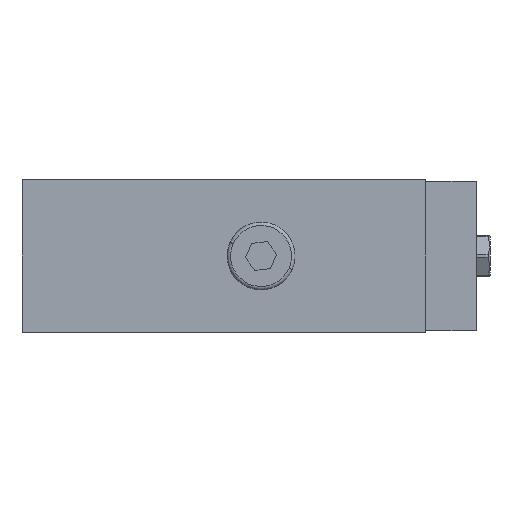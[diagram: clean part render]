
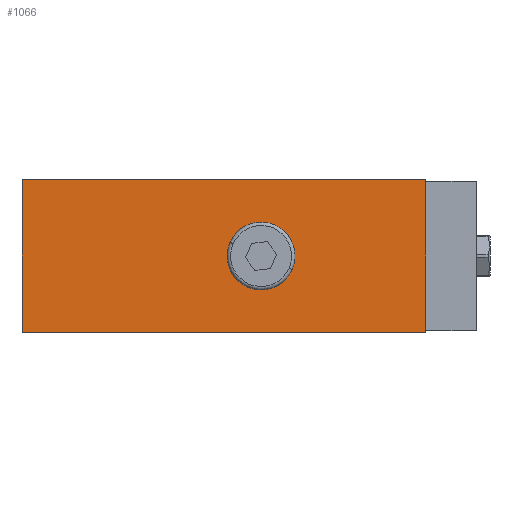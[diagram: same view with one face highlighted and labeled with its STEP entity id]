
A CAD part, front view. The second image highlights one B-rep face of the part: STEP entity #1066.
In plain terms, the highlighted planar face has unit normal (0, -1, 0).
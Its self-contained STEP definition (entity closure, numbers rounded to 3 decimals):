
#64 = ORIENTED_EDGE ( 'NONE', *, *, #8251, .F. ) ;
#102 = CARTESIAN_POINT ( 'NONE',  ( -59.5, 0., 22.5 ) ) ;
#703 = EDGE_LOOP ( 'NONE', ( #12954, #3937, #9017, #12183 ) ) ;
#1066 = ADVANCED_FACE ( 'NONE', ( #10832, #7334 ), #12821, .T. ) ;
#1095 = CARTESIAN_POINT ( 'NONE',  ( 11., 0., 8.5 ) ) ;
#1541 = DIRECTION ( 'NONE',  ( 0., 0., -1. ) ) ;
#1674 = VERTEX_POINT ( 'NONE', #6100 ) ;
#2183 = VERTEX_POINT ( 'NONE', #7733 ) ;
#2865 = LINE ( 'NONE', #9574, #4626 ) ;
#3029 = LINE ( 'NONE', #12957, #4538 ) ;
#3204 = EDGE_CURVE ( 'NONE', #1674, #10638, #2865, .T. ) ;
#3383 = DIRECTION ( 'NONE',  ( 0., 0., -1. ) ) ;
#3937 = ORIENTED_EDGE ( 'NONE', *, *, #11420, .F. ) ;
#4311 = CARTESIAN_POINT ( 'NONE',  ( -59.5, 0., -22.5 ) ) ;
#4538 = VECTOR ( 'NONE', #11820, 1000. ) ;
#4626 = VECTOR ( 'NONE', #7585, 1000. ) ;
#4996 = AXIS2_PLACEMENT_3D ( 'NONE', #13613, #12564, #1541 ) ;
#5225 = VERTEX_POINT ( 'NONE', #12263 ) ;
#5394 = VECTOR ( 'NONE', #8727, 1000. ) ;
#5503 = VERTEX_POINT ( 'NONE', #12320 ) ;
#6100 = CARTESIAN_POINT ( 'NONE',  ( 59.5, 0., 22.5 ) ) ;
#6641 = DIRECTION ( 'NONE',  ( 1., 0., 0. ) ) ;
#6821 = ORIENTED_EDGE ( 'NONE', *, *, #7151, .F. ) ;
#7102 = VECTOR ( 'NONE', #6641, 1000. ) ;
#7151 = EDGE_CURVE ( 'NONE', #12234, #2183, #11204, .T. ) ;
#7334 = FACE_OUTER_BOUND ( 'NONE', #703, .T. ) ;
#7585 = DIRECTION ( 'NONE',  ( 0., 0., -1. ) ) ;
#7675 = DIRECTION ( 'NONE',  ( 0., -1., 0. ) ) ;
#7733 = CARTESIAN_POINT ( 'NONE',  ( 11., 0., -8.5 ) ) ;
#7942 = EDGE_CURVE ( 'NONE', #5503, #1674, #11076, .T. ) ;
#8049 = AXIS2_PLACEMENT_3D ( 'NONE', #12179, #9900, #13176 ) ;
#8251 = EDGE_CURVE ( 'NONE', #2183, #12234, #13272, .T. ) ;
#8462 = EDGE_LOOP ( 'NONE', ( #64, #6821 ) ) ;
#8727 = DIRECTION ( 'NONE',  ( -1., 0., 0. ) ) ;
#9017 = ORIENTED_EDGE ( 'NONE', *, *, #3204, .F. ) ;
#9411 = EDGE_CURVE ( 'NONE', #5225, #5503, #3029, .T. ) ;
#9574 = CARTESIAN_POINT ( 'NONE',  ( 59.5, 0., 22.5 ) ) ;
#9900 = DIRECTION ( 'NONE',  ( 0., -1., 0. ) ) ;
#10638 = VERTEX_POINT ( 'NONE', #12672 ) ;
#10832 = FACE_BOUND ( 'NONE', #8462, .T. ) ;
#11076 = LINE ( 'NONE', #102, #7102 ) ;
#11112 = CARTESIAN_POINT ( 'NONE',  ( -59.5, 0., -22.5 ) ) ;
#11204 = CIRCLE ( 'NONE', #4996, 8.5 ) ;
#11420 = EDGE_CURVE ( 'NONE', #10638, #5225, #14151, .T. ) ;
#11820 = DIRECTION ( 'NONE',  ( 0., 0., 1. ) ) ;
#12179 = CARTESIAN_POINT ( 'NONE',  ( 11., 0., 0. ) ) ;
#12183 = ORIENTED_EDGE ( 'NONE', *, *, #7942, .F. ) ;
#12234 = VERTEX_POINT ( 'NONE', #1095 ) ;
#12263 = CARTESIAN_POINT ( 'NONE',  ( -59.5, 0., -22.5 ) ) ;
#12320 = CARTESIAN_POINT ( 'NONE',  ( -59.5, 0., 22.5 ) ) ;
#12564 = DIRECTION ( 'NONE',  ( 0., -1., 0. ) ) ;
#12672 = CARTESIAN_POINT ( 'NONE',  ( 59.5, 0., -22.5 ) ) ;
#12821 = PLANE ( 'NONE',  #12979 ) ;
#12954 = ORIENTED_EDGE ( 'NONE', *, *, #9411, .F. ) ;
#12957 = CARTESIAN_POINT ( 'NONE',  ( -59.5, 0., 22.5 ) ) ;
#12979 = AXIS2_PLACEMENT_3D ( 'NONE', #11112, #7675, #3383 ) ;
#13176 = DIRECTION ( 'NONE',  ( 0., 0., -1. ) ) ;
#13272 = CIRCLE ( 'NONE', #8049, 8.5 ) ;
#13613 = CARTESIAN_POINT ( 'NONE',  ( 11., 0., 0. ) ) ;
#14151 = LINE ( 'NONE', #4311, #5394 ) ;
